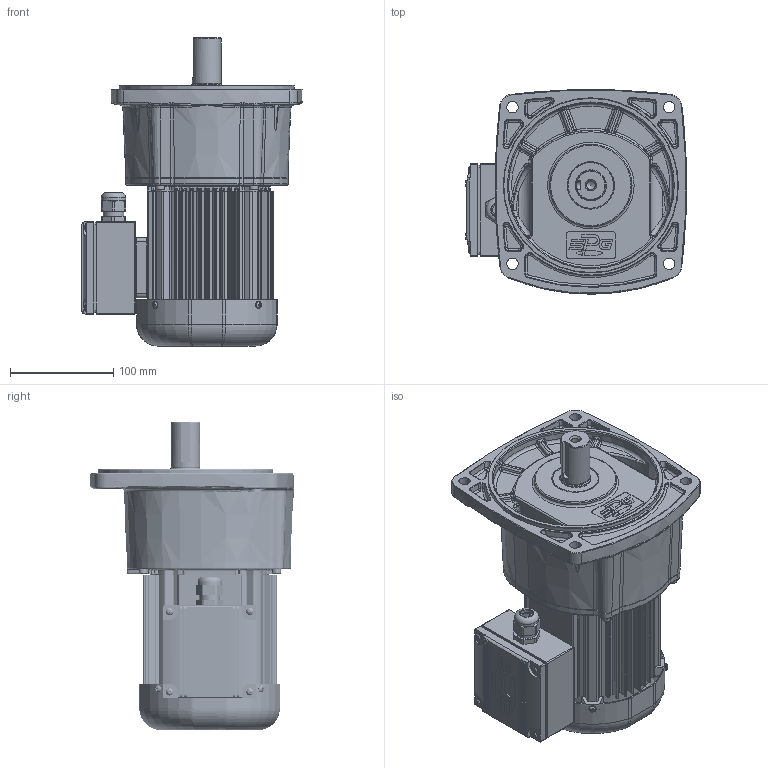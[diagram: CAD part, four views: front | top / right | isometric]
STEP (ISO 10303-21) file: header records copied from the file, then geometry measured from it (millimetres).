
FILE_DESCRIPTION(/* description */ (''),/* implementation_level */ '2;1');
FILE_NAME(/* name */ 'Z:\동력 3D 파일\PAF28_0.2kW_3D.stp',/* time_stamp */ '2021-11-08T15:06:53+09:00',/* author */ ('jaebok'),/* organization */ (''),/* preprocessor_version */ 'ST-DEVELOPER v18.1',/* originating_system */ 'Autodesk Inventor 2022',/* authorisation */ '');
FILE_SCHEMA (('AUTOMOTIVE_DESIGN { 1 0 10303 214 3 1 1 }'));
Products named in the file (1): 부품5
Bounding box: 214.24 x 198.24 x 299 mm (x, y, z)
Volume: 1650108.2 mm3; surface area: 561278.8 mm2
Topology: 2 solids, 40 shells, 3894 faces, 9858 edges, 5873 vertices
Faces by surface type: plane 1219, bspline 985, cylinder 941, torus 378, cone 260, sphere 111
Full cylindrical faces by diameter (mm): 2 x1, 3.242 x9, 3.25 x1, 3.6 x4, 4 x21, 4.2 x4, 4.917 x4, 5 x21, 5.386 x4, 5.5 x4, 6 x8, 7 x12, 8 x1, 8.376 x1, 8.5 x4, 10 x1, 12.5 x1, 15 x1, 16.2 x1, 19 x1, 20 x2, 21 x1, 23.6 x1, 25 x1, 27 x2, 27.6 x1, 28 x3, 30 x5, 32 x1, 34 x2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
Entity records: 157117 total; most frequent: CARTESIAN_POINT 66622, ORIENTED_EDGE 19174, DIRECTION 16662, EDGE_CURVE 9587, AXIS2_PLACEMENT_3D 6742, VERTEX_POINT 5873, EDGE_LOOP 4104, FACE_OUTER_BOUND 3894
